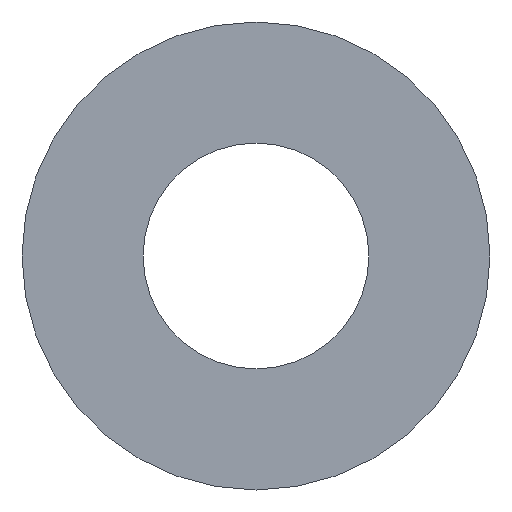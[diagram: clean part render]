
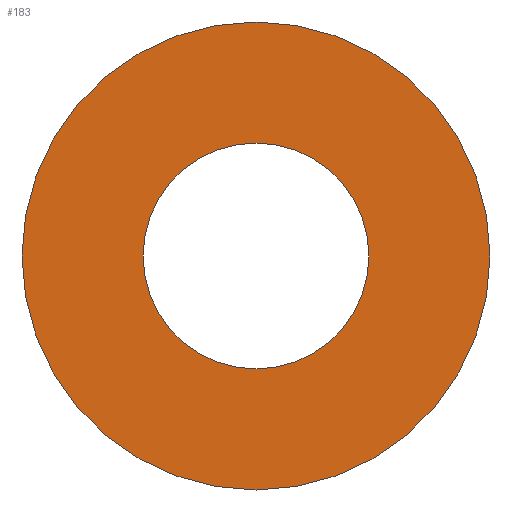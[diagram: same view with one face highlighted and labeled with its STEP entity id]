
A CAD part, left-side view. The second image highlights one B-rep face of the part: STEP entity #183.
In plain terms, the highlighted planar face has unit normal (-1, 0, 0).
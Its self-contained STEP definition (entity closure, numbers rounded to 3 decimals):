
#22 = VERTEX_POINT('',#23);
#23 = CARTESIAN_POINT('',(72.444,2.3,12.));
#32 = CYLINDRICAL_SURFACE('',#33,2.3);
#33 = AXIS2_PLACEMENT_3D('',#34,#35,#36);
#34 = CARTESIAN_POINT('',(72.444,0.,12.));
#35 = DIRECTION('',(-1.,-0.,-0.));
#36 = DIRECTION('',(0.,1.,0.));
#79 = EDGE_CURVE('',#22,#22,#80,.T.);
#80 = SURFACE_CURVE('',#81,(#86,#93),.PCURVE_S1.);
#81 = CIRCLE('',#82,2.3);
#82 = AXIS2_PLACEMENT_3D('',#83,#84,#85);
#83 = CARTESIAN_POINT('',(72.444,0.,12.));
#84 = DIRECTION('',(1.,0.,0.));
#85 = DIRECTION('',(0.,1.,0.));
#86 = PCURVE('',#32,#87);
#87 = DEFINITIONAL_REPRESENTATION('',(#88),#92);
#88 = LINE('',#89,#90);
#89 = CARTESIAN_POINT('',(-0.,0.));
#90 = VECTOR('',#91,1.);
#91 = DIRECTION('',(-1.,0.));
#92 = ( GEOMETRIC_REPRESENTATION_CONTEXT(2) 
PARAMETRIC_REPRESENTATION_CONTEXT() REPRESENTATION_CONTEXT('2D SPACE',''
  ) );
#93 = PCURVE('',#94,#99);
#94 = PLANE('',#95);
#95 = AXIS2_PLACEMENT_3D('',#96,#97,#98);
#96 = CARTESIAN_POINT('',(72.444,0.,12.));
#97 = DIRECTION('',(1.,0.,0.));
#98 = DIRECTION('',(-0.,0.,1.));
#99 = DEFINITIONAL_REPRESENTATION('',(#100),#104);
#100 = CIRCLE('',#101,2.3);
#101 = AXIS2_PLACEMENT_2D('',#102,#103);
#102 = CARTESIAN_POINT('',(0.,0.));
#103 = DIRECTION('',(0.,-1.));
#104 = ( GEOMETRIC_REPRESENTATION_CONTEXT(2) 
PARAMETRIC_REPRESENTATION_CONTEXT() REPRESENTATION_CONTEXT('2D SPACE',''
  ) );
#110 = VERTEX_POINT('',#111);
#111 = CARTESIAN_POINT('',(72.444,1.11,12.));
#120 = CYLINDRICAL_SURFACE('',#121,1.11);
#121 = AXIS2_PLACEMENT_3D('',#122,#123,#124);
#122 = CARTESIAN_POINT('',(72.444,0.,12.));
#123 = DIRECTION('',(-1.,-0.,-0.));
#124 = DIRECTION('',(0.,1.,0.));
#162 = EDGE_CURVE('',#110,#110,#163,.T.);
#163 = SURFACE_CURVE('',#164,(#169,#176),.PCURVE_S1.);
#164 = CIRCLE('',#165,1.11);
#165 = AXIS2_PLACEMENT_3D('',#166,#167,#168);
#166 = CARTESIAN_POINT('',(72.444,0.,12.));
#167 = DIRECTION('',(1.,0.,0.));
#168 = DIRECTION('',(0.,1.,0.));
#169 = PCURVE('',#120,#170);
#170 = DEFINITIONAL_REPRESENTATION('',(#171),#175);
#171 = LINE('',#172,#173);
#172 = CARTESIAN_POINT('',(-0.,0.));
#173 = VECTOR('',#174,1.);
#174 = DIRECTION('',(-1.,0.));
#175 = ( GEOMETRIC_REPRESENTATION_CONTEXT(2) 
PARAMETRIC_REPRESENTATION_CONTEXT() REPRESENTATION_CONTEXT('2D SPACE',''
  ) );
#176 = PCURVE('',#94,#177);
#177 = DEFINITIONAL_REPRESENTATION('',(#178),#182);
#178 = CIRCLE('',#179,1.11);
#179 = AXIS2_PLACEMENT_2D('',#180,#181);
#180 = CARTESIAN_POINT('',(0.,0.));
#181 = DIRECTION('',(0.,-1.));
#182 = ( GEOMETRIC_REPRESENTATION_CONTEXT(2) 
PARAMETRIC_REPRESENTATION_CONTEXT() REPRESENTATION_CONTEXT('2D SPACE',''
  ) );
#183 = ADVANCED_FACE('',(#184,#187),#94,.F.);
#184 = FACE_BOUND('',#185,.F.);
#185 = EDGE_LOOP('',(#186));
#186 = ORIENTED_EDGE('',*,*,#79,.T.);
#187 = FACE_BOUND('',#188,.F.);
#188 = EDGE_LOOP('',(#189));
#189 = ORIENTED_EDGE('',*,*,#162,.F.);
